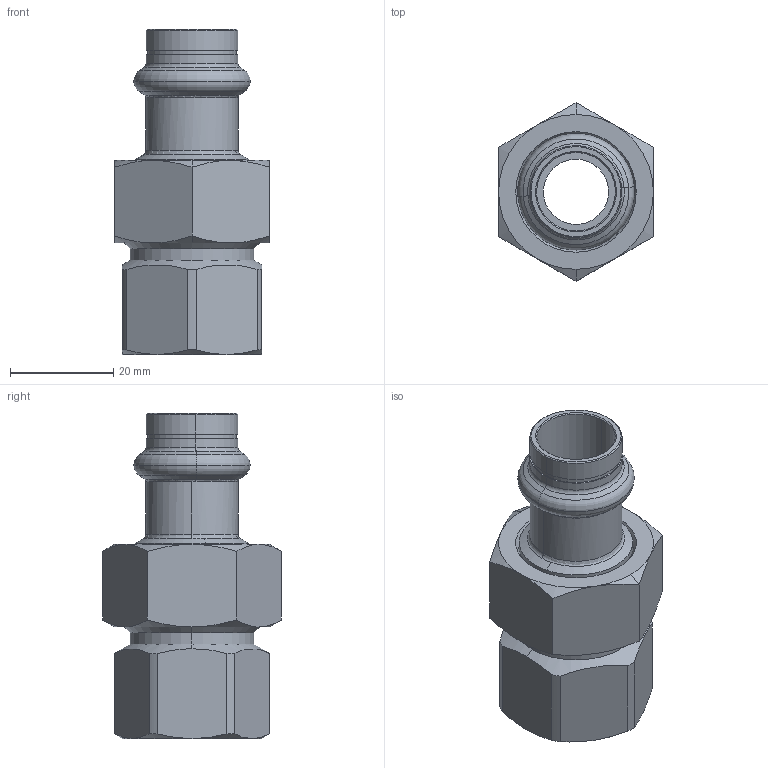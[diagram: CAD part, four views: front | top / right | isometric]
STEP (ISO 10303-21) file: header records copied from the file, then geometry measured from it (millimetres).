
FILE_DESCRIPTION(('CoCreate Modeling STEP Export'),'2;1');
FILE_NAME('8330GVW1512.stp','2013-03-05T13:02:58',(''),(''),'CoCreate Modeling STEP processor for AP214 (Solid Model)','CoCreate Modeling 17.00A 17-Jun-2010 (C) Parametric Technology GmbH','');
FILE_SCHEMA(('AUTOMOTIVE_DESIGN { 1 0 10303 214 1 1 1 1 }'));
Length unit declared in the file: millimetre
Products named in the file (4): DRAAD; MOER; Wartelpuntstuk_C-pr_15x3.1; 8330GVW1512
Assembly tree (3 placements, depth 2):
  8330GVW1512
    Wartelpuntstuk_C-pr_15x3.1
    MOER
    DRAAD
Bounding box: 30 x 34.64 x 63 mm (x, y, z)
Volume: 18844.3 mm3; surface area: 12455.7 mm2
Topology: 3 solids, 3 shells, 136 faces, 308 edges, 182 vertices
Faces by surface type: cone 56, cylinder 44, plane 22, torus 14
Entity records: 4890 total; most frequent: CARTESIAN_POINT 2267, ORIENTED_EDGE 616, DIRECTION 376, EDGE_CURVE 308, VERTEX_POINT 182, EDGE_LOOP 146, AXIS2_PLACEMENT_3D 138, FACE_OUTER_BOUND 136
